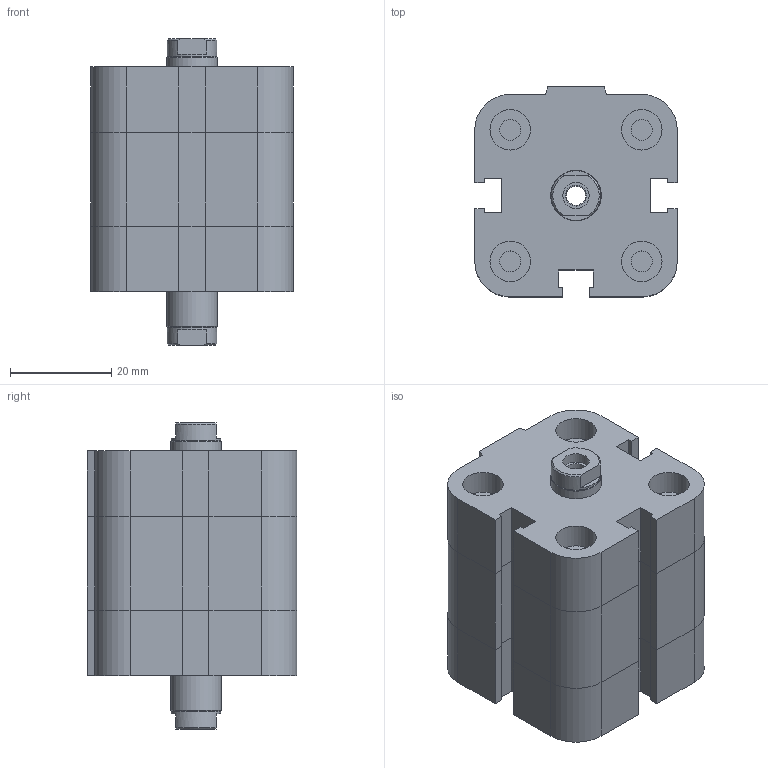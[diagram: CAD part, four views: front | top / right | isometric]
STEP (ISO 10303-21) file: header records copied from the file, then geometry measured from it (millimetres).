
FILE_DESCRIPTION((''),'2;1');
FILE_NAME('I:\Area Tecnica\Disegni\VARIE-3D\Componenti\EUROPE\15##_###_####_06_#\1581_25_0005_06_1.iam.stp','2009-04-20T15:09:00',(''),(''),'Autodesk Inventor 2009','Autodesk Inventor 2009','');
FILE_SCHEMA(('AUTOMOTIVE_DESIGN { 1 0 10303 214 1 1 1 1 }'));
Length unit declared in the file: millimetre
Products named in the file (3): 1581_25_0005_06_1; 1581_25_0005_03_1_C; 1561_25_0005_06_1_S
Assembly tree (2 placements, depth 2):
  1581_25_0005_06_1
    1581_25_0005_03_1_C
    1561_25_0005_06_1_S
Bounding box: 40 x 41.5 x 60.5 mm (x, y, z)
Volume: 62419.8 mm3; surface area: 18181 mm2
Topology: 2 solids, 2 shells, 175 faces, 382 edges, 233 vertices
Faces by surface type: plane 114, bspline 30, cylinder 25, cone 6
Full cylindrical faces by diameter (mm): 4.134 x5, 5.2 x1, 8 x4, 9.8 x2, 10 x1
Entity records: 4805 total; most frequent: CARTESIAN_POINT 1042, DIRECTION 712, ORIENTED_EDGE 680, EDGE_CURVE 340, VECTOR 252, LINE 252, AXIS2_PLACEMENT_3D 230, EDGE_LOOP 230
